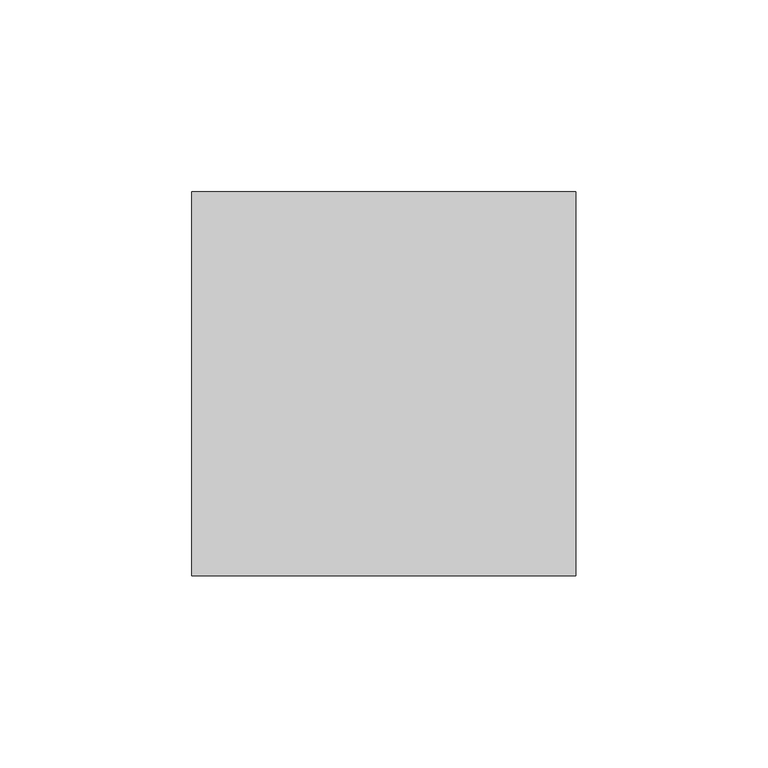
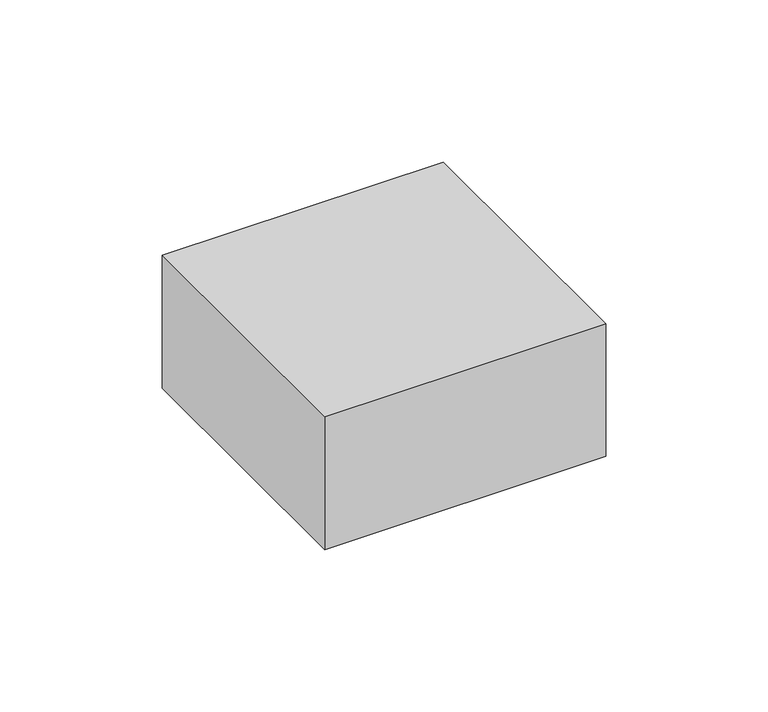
"""IFC4 building model written with IfcOpenShell, lengths in millimetres: member geometry, Montante angular cuadrilátero : Montante cuadrilátero 1."""

import ifcopenshell
import ifcopenshell.guid

model = None  # the IFC model being written
_history = None  # IfcOwnerHistory: only IFC2X3 demands one
_inside = {}  # id of a spatial element -> (the spatial element, [elements in it])
_under = {}  # id of a project, library or spatial element -> (it, [spatial elements below it])
_declared = {}  # id of a project -> (the project, [libraries it declares])
_typed = {}  # id of a type object -> (the type object, [elements of that type])
_made_of = {}  # id of a material, layer set ... -> (it, [elements and type objects made of it])


def new_model(schema):
    """Start an empty IFC model of exactly this schema.

    Asked for "IFC4X3", IfcOpenShell would pick the latest addendum, in which some entities
    have other attributes; the version numbers below select the first issue.
    IFC2X3 requires an IfcOwnerHistory on every rooted entity: one is made here for all.
    """
    global model, _history
    if schema == "IFC4X3":
        model = ifcopenshell.file(schema_version=(4, 3, 0, 0))
    else:
        model = ifcopenshell.file(schema=schema)
    _inside.clear()
    _under.clear()
    _declared.clear()
    _typed.clear()
    _made_of.clear()
    _history = None
    if model.schema == "IFC2X3":
        org = make("IfcOrganization", Name="unknown")
        user = make(
            "IfcPersonAndOrganization",
            ThePerson=make("IfcPerson", FamilyName="unknown"),
            TheOrganization=org,
        )
        app = make(
            "IfcApplication",
            ApplicationDeveloper=org,
            Version="unknown",
            ApplicationFullName="unknown",
            ApplicationIdentifier="unknown",
        )
        _history = make(
            "IfcOwnerHistory",
            OwningUser=user,
            OwningApplication=app,
            ChangeAction="ADDED",
            CreationDate=0,
        )
    return model


def make(cls, **values):
    """One entity of the class cls with the attributes given. An attribute that is None is left unset."""
    return model.create_entity(
        cls, **{name: value for name, value in values.items() if value is not None}
    )


def rooted(cls, **values):
    """An entity with a GlobalId (a new one), such as an element, a storey or a relation."""
    return make(cls, GlobalId=ifcopenshell.guid.new(), OwnerHistory=_history, **values)


def si_unit(unit_type, name, prefix=None):
    """IfcSIUnit, for example si_unit("LENGTHUNIT", "METRE", prefix="MILLI")."""
    return make("IfcSIUnit", UnitType=unit_type, Prefix=prefix, Name=name)


def assignment(units):
    """IfcUnitAssignment: the units of a project."""
    return None if units is None else make("IfcUnitAssignment", Units=units)


def point(xyz):
    """IfcCartesianPoint."""
    return None if xyz is None else make("IfcCartesianPoint", Coordinates=xyz)


def direction(xyz):
    """IfcDirection."""
    return None if xyz is None else make("IfcDirection", DirectionRatios=xyz)


def frame(location, z_axis=None, x_axis=None):
    """IfcAxis2Placement3D, a coordinate frame: its origin and axes. An axis left out is left unset."""
    return make(
        "IfcAxis2Placement3D",
        Location=point(location),
        Axis=direction(z_axis),
        RefDirection=direction(x_axis),
    )


def origin():
    """The frame at (0, 0, 0) with its axes left unset."""
    return frame((0.0, 0.0, 0.0))


def place(relative_to, where):
    """IfcLocalPlacement: puts the frame where relative to a parent placement (None: the world)."""
    return make(
        "IfcLocalPlacement", PlacementRelTo=relative_to, RelativePlacement=where
    )


def context(
    kind, dimensions, precision=None, world=None, true_north=None, identifier=None
):
    """IfcGeometricRepresentationContext, for example the 3D "Model" context."""
    return make(
        "IfcGeometricRepresentationContext",
        ContextIdentifier=identifier,
        ContextType=kind,
        CoordinateSpaceDimension=dimensions,
        Precision=precision,
        WorldCoordinateSystem=world,
        TrueNorth=true_north,
    )


def project(units=None, contexts=None):
    """IfcProject with its units and contexts."""
    return rooted(
        "IfcProject",
        Name="project",
        RepresentationContexts=contexts,
        UnitsInContext=assignment(units),
    )


def spatial(cls, under=None, at=None, **own):
    """A site, building, storey or space (cls), placed at a placement, below another one or the project."""
    s = rooted(cls, ObjectPlacement=at, **own)
    if under is not None:
        _under.setdefault(under.id(), (under, []))[1].append(s)
    return s


def polyline(points):
    """IfcPolyline through the points."""
    return make("IfcPolyline", Points=[point(p) for p in points])


def outline(outer, holes=None, kind="AREA"):
    """IfcArbitraryClosedProfileDef: a profile drawn as a closed curve; with holes, ...WithVoids."""
    if holes is None:
        return make("IfcArbitraryClosedProfileDef", ProfileType=kind, OuterCurve=outer)
    return make(
        "IfcArbitraryProfileDefWithVoids",
        ProfileType=kind,
        OuterCurve=outer,
        InnerCurves=holes,
    )


def extrude(swept, where, along, depth):
    """IfcExtrudedAreaSolid: the profile swept, set in the frame where, extruded along a direction by depth."""
    return make(
        "IfcExtrudedAreaSolid",
        SweptArea=swept,
        Position=where,
        ExtrudedDirection=direction(along),
        Depth=depth,
    )


def shape(context_of_items, identifier, shape_type, items):
    """IfcShapeRepresentation: the items that make up one representation, for example the "Body"."""
    return make(
        "IfcShapeRepresentation",
        ContextOfItems=context_of_items,
        RepresentationIdentifier=identifier,
        RepresentationType=shape_type,
        Items=items,
    )


def source(mapping_origin, context_of_items, identifier, shape_type, items):
    """IfcRepresentationMap: a shape defined once, which mapped items show again and again."""
    return make(
        "IfcRepresentationMap",
        MappingOrigin=mapping_origin,
        MappedRepresentation=shape(context_of_items, identifier, shape_type, items),
    )


def transform(
    local_origin,
    x_axis=None,
    y_axis=None,
    z_axis=None,
    scale=None,
    scale2=None,
    scale3=None,
    uniform=True,
):
    """IfcCartesianTransformationOperator3D, or its non-uniform kind. x_axis, y_axis, z_axis: its Axis1, 2, 3."""
    if uniform:
        return make(
            "IfcCartesianTransformationOperator3D",
            Axis1=direction(x_axis),
            Axis2=direction(y_axis),
            LocalOrigin=point(local_origin),
            Scale=scale,
            Axis3=direction(z_axis),
        )
    return make(
        "IfcCartesianTransformationOperator3DnonUniform",
        Axis1=direction(x_axis),
        Axis2=direction(y_axis),
        LocalOrigin=point(local_origin),
        Scale=scale,
        Axis3=direction(z_axis),
        Scale2=scale2,
        Scale3=scale3,
    )


def mapped(mapping_source, mapping_target):
    """IfcMappedItem: shows the shape of a source again, moved by a transform."""
    return make(
        "IfcMappedItem", MappingSource=mapping_source, MappingTarget=mapping_target
    )


def made_of(thing, what):
    """Note that an element or type object is made of a material, layer set ...; save() writes the relation."""
    if what is not None:
        _made_of.setdefault(what.id(), (what, []))[1].append(thing)
    return thing


def element(
    cls,
    number,
    at=None,
    inside=None,
    cuts=None,
    type_object=None,
    material=None,
    context=None,
    identifier="Body",
    shape_type=None,
    held_by="IfcProductDefinitionShape",
    body=None,
    shapes=None,
    **own,
):
    """One element of the class cls, such as IfcWall. Its Tag is "e" and its number.

    at: its placement. inside: the storey or other place that contains it. cuts: it is an
    opening in that element (IfcRelVoidsElement). A single representation is given by context,
    identifier, shape_type and body (its items); several are given by shapes. held_by: the class
    of the entity that holds the representations. save() writes the other relations.
    """
    e = rooted(cls, Tag="e%d" % number, ObjectPlacement=at, **own)
    if body is not None:
        shapes = [shape(context, identifier, shape_type, body)]
    if shapes is not None:
        e.Representation = make(held_by, Representations=shapes)
    if inside is not None:
        _inside.setdefault(inside.id(), (inside, []))[1].append(e)
    if cuts is not None:
        rooted(
            "IfcRelVoidsElement", RelatingBuildingElement=cuts, RelatedOpeningElement=e
        )
    if type_object is not None:
        _typed.setdefault(type_object.id(), (type_object, []))[1].append(e)
    return made_of(e, material)


def aggregate(whole, parts):
    """IfcRelAggregates: a whole, such as a stair, and the parts it consists of."""
    return rooted("IfcRelAggregates", RelatingObject=whole, RelatedObjects=parts)


def save(model, path):
    """Write the relations noted so far, then the file.

    IfcRelAggregates (storeys below a building ...), IfcRelContainedInSpatialStructure (elements
    in a storey), IfcRelDefinesByType, IfcRelAssociatesMaterial and IfcRelDeclares: one each for
    every whole, place, type object, material and project.
    """
    for whole, parts in _under.values():
        aggregate(whole, parts)
    for where, things in _inside.values():
        rooted(
            "IfcRelContainedInSpatialStructure",
            RelatedElements=things,
            RelatingStructure=where,
        )
    for kind, things in _typed.values():
        rooted("IfcRelDefinesByType", RelatedObjects=things, RelatingType=kind)
    for what, things in _made_of.values():
        rooted("IfcRelAssociatesMaterial", RelatedObjects=things, RelatingMaterial=what)
    for by, libraries in _declared.values():
        rooted("IfcRelDeclares", RelatingContext=by, RelatedDefinitions=libraries)
    model.write(path)


def member_35746a04(model_context):
    return source(origin(), model_context, "Body", "SweptSolid", [
        extrude(outline(polyline([(50.0, 50.0), (50.0, -50.0), (-50.0, -50.0), (-50.0, 50.0), (50.0, 50.0)])), frame((0.0, 0.0, -50.0), z_axis=(0.0, 0.0, 1.0), x_axis=(1.0, 0.0, 0.0)), (0.0, 0.0, 1.0), 50.0),
    ])


if __name__ == "__main__":
    model = new_model("IFC4")
    model_context = context("Model", 3, world=origin())
    ifc_project = project(units=[si_unit("LENGTHUNIT", "METRE", prefix="MILLI")], contexts=[model_context])
    site = spatial("IfcSite", under=ifc_project)
    building = spatial("IfcBuilding", under=site)
    placement = place(None, origin())
    member_shape = member_35746a04(model_context)
    element("IfcMember", 1, ObjectType="Montante angular cuadrilátero : Montante cuadrilátero 1", at=placement, inside=building, context=model_context, shape_type="MappedRepresentation", body=[
        mapped(member_shape, transform((0.0, 0.0, 0.0), x_axis=(1.0, 0.0, 0.0), y_axis=(0.0, 1.0, 0.0), z_axis=(0.0, 0.0, 1.0))),
    ])
    save(model, "model.ifc")
